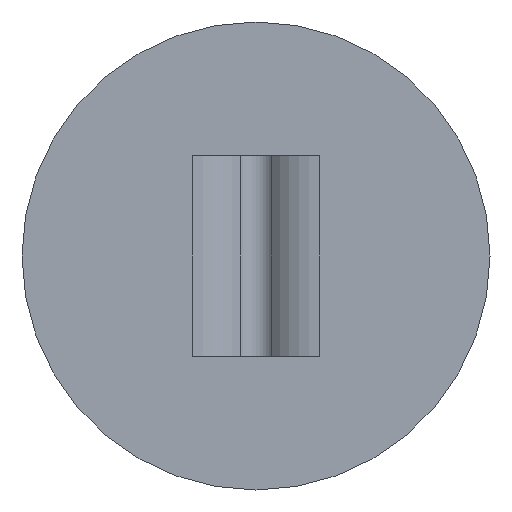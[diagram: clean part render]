
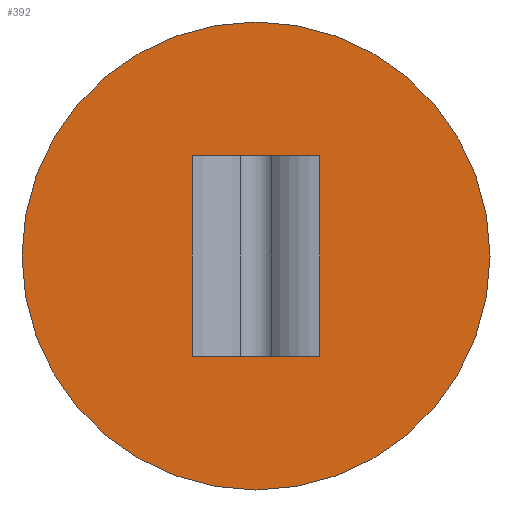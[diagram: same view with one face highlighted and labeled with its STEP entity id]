
A CAD part, front view. The second image highlights one B-rep face of the part: STEP entity #392.
In plain terms, the highlighted planar face has unit normal (0, -1, 0).
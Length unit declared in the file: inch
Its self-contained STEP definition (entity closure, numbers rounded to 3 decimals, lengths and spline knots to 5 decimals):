
#8 = VECTOR ( 'NONE', #296, 39.37008 ) ;
#19 = VERTEX_POINT ( 'NONE', #299 ) ;
#20 = LINE ( 'NONE', #461, #178 ) ;
#43 = DIRECTION ( 'NONE',  ( 0., 0., 1. ) ) ;
#44 = AXIS2_PLACEMENT_3D ( 'NONE', #435, #443, #440 ) ;
#47 = DIRECTION ( 'NONE',  ( 1., 0., 0. ) ) ;
#55 = CARTESIAN_POINT ( 'NONE',  ( -0.17074, -0.089, 0.536 ) ) ;
#56 = ORIENTED_EDGE ( 'NONE', *, *, #294, .T. ) ;
#59 = ORIENTED_EDGE ( 'NONE', *, *, #285, .F. ) ;
#94 = DIRECTION ( 'NONE',  ( 0., -1., 0. ) ) ;
#106 = CARTESIAN_POINT ( 'NONE',  ( 0.625, -0.089, 0.268 ) ) ;
#115 = EDGE_CURVE ( 'NONE', #134, #19, #298, .T. ) ;
#125 = CARTESIAN_POINT ( 'NONE',  ( 0.17074, -0.089, 0. ) ) ;
#134 = VERTEX_POINT ( 'NONE', #106 ) ;
#135 = AXIS2_PLACEMENT_3D ( 'NONE', #474, #283, #469 ) ;
#143 = AXIS2_PLACEMENT_3D ( 'NONE', #265, #94, #47 ) ;
#145 = EDGE_CURVE ( 'NONE', #287, #244, #255, .T. ) ;
#155 = ORIENTED_EDGE ( 'NONE', *, *, #263, .T. ) ;
#178 = VECTOR ( 'NONE', #274, 39.37008 ) ;
#191 = VERTEX_POINT ( 'NONE', #436 ) ;
#195 = CARTESIAN_POINT ( 'NONE',  ( -0.17074, -0.089, 0. ) ) ;
#196 = ORIENTED_EDGE ( 'NONE', *, *, #145, .F. ) ;
#221 = CARTESIAN_POINT ( 'NONE',  ( -0.17074, -0.089, 0. ) ) ;
#244 = VERTEX_POINT ( 'NONE', #125 ) ;
#255 = LINE ( 'NONE', #221, #8 ) ;
#259 = VECTOR ( 'NONE', #43, 39.37008 ) ;
#263 = EDGE_CURVE ( 'NONE', #333, #191, #457, .T. ) ;
#265 = CARTESIAN_POINT ( 'NONE',  ( 0., -0.089, 0.268 ) ) ;
#274 = DIRECTION ( 'NONE',  ( 0., 0., 1. ) ) ;
#276 = ORIENTED_EDGE ( 'NONE', *, *, #115, .T. ) ;
#283 = DIRECTION ( 'NONE',  ( 0., 1., 0. ) ) ;
#285 = EDGE_CURVE ( 'NONE', #244, #191, #20, .T. ) ;
#287 = VERTEX_POINT ( 'NONE', #343 ) ;
#294 = EDGE_CURVE ( 'NONE', #287, #333, #301, .T. ) ;
#296 = DIRECTION ( 'NONE',  ( 1., 0., 0. ) ) ;
#298 = CIRCLE ( 'NONE', #44, 0.625 ) ;
#299 = CARTESIAN_POINT ( 'NONE',  ( -0.625, -0.089, 0.268 ) ) ;
#301 = LINE ( 'NONE', #195, #259 ) ;
#308 = ORIENTED_EDGE ( 'NONE', *, *, #329, .T. ) ;
#326 = CIRCLE ( 'NONE', #143, 0.625 ) ;
#329 = EDGE_CURVE ( 'NONE', #19, #134, #326, .T. ) ;
#333 = VERTEX_POINT ( 'NONE', #55 ) ;
#343 = CARTESIAN_POINT ( 'NONE',  ( -0.17074, -0.089, 0. ) ) ;
#354 = PLANE ( 'NONE',  #135 ) ;
#356 = EDGE_LOOP ( 'NONE', ( #196, #56, #155, #59 ) ) ;
#357 = FACE_BOUND ( 'NONE', #356, .T. ) ;
#360 = FACE_OUTER_BOUND ( 'NONE', #390, .T. ) ;
#386 = CARTESIAN_POINT ( 'NONE',  ( -0.17074, -0.089, 0.536 ) ) ;
#390 = EDGE_LOOP ( 'NONE', ( #276, #308 ) ) ;
#392 = ADVANCED_FACE ( 'NONE', ( #360, #357 ), #354, .F. ) ;
#399 = VECTOR ( 'NONE', #447, 39.37008 ) ;
#435 = CARTESIAN_POINT ( 'NONE',  ( 0., -0.089, 0.268 ) ) ;
#436 = CARTESIAN_POINT ( 'NONE',  ( 0.17074, -0.089, 0.536 ) ) ;
#440 = DIRECTION ( 'NONE',  ( 1., 0., 0. ) ) ;
#443 = DIRECTION ( 'NONE',  ( 0., -1., 0. ) ) ;
#447 = DIRECTION ( 'NONE',  ( 1., 0., 0. ) ) ;
#457 = LINE ( 'NONE', #386, #399 ) ;
#461 = CARTESIAN_POINT ( 'NONE',  ( 0.17074, -0.089, 0. ) ) ;
#469 = DIRECTION ( 'NONE',  ( 0., 0., 1. ) ) ;
#474 = CARTESIAN_POINT ( 'NONE',  ( -0.625, -0.089, 0.536 ) ) ;
